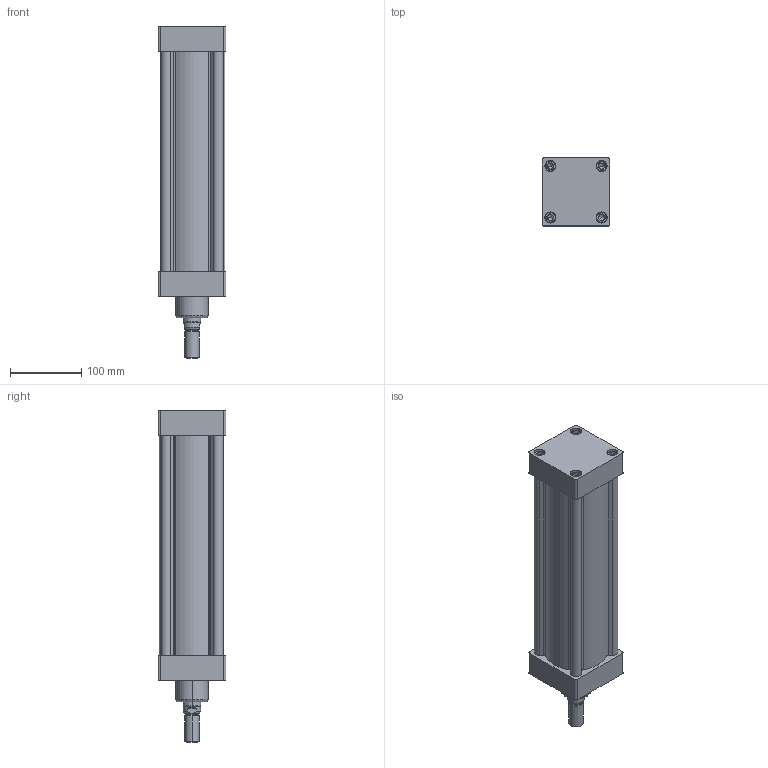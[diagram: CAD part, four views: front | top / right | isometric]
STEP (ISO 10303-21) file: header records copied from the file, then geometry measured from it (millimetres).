
FILE_DESCRIPTION (( 'STEP AP214' ), '1' );
FILE_NAME ('WSI-080-0250 (MDMY).STEP', '2016-07-19T11:23:35', ( 'Hidtek' ), ( '' ), 'SwSTEP 2.0', 'SolidWorks 2016', '' );
FILE_SCHEMA (( 'AUTOMOTIVE_DESIGN' ));
Length unit declared in the file: millimetre
Products named in the file (3): Group1^WSI-080-0250 (MDMY); WSI-080-0250 (MDMY); Group2^WSI-080-0250 (MDMY)
Assembly tree (2 placements, depth 2):
  WSI-080-0250 (MDMY)
    Group1^WSI-080-0250 (MDMY)
    Group2^WSI-080-0250 (MDMY)
Bounding box: 95 x 95 x 464.5 mm (x, y, z)
Volume: 1638287.7 mm3; surface area: 358047.8 mm2
Topology: 12 solids, 12 shells, 396 faces, 956 edges, 608 vertices
Faces by surface type: plane 223, cylinder 111, cone 58, torus 4
Entity records: 12693 total; most frequent: CARTESIAN_POINT 2329, DIRECTION 1952, ORIENTED_EDGE 1880, EDGE_CURVE 940, AXIS2_PLACEMENT_3D 683, VERTEX_POINT 608, VECTOR 586, LINE 586
